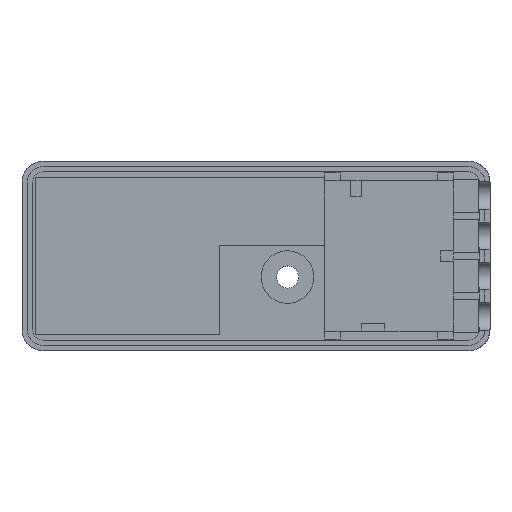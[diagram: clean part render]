
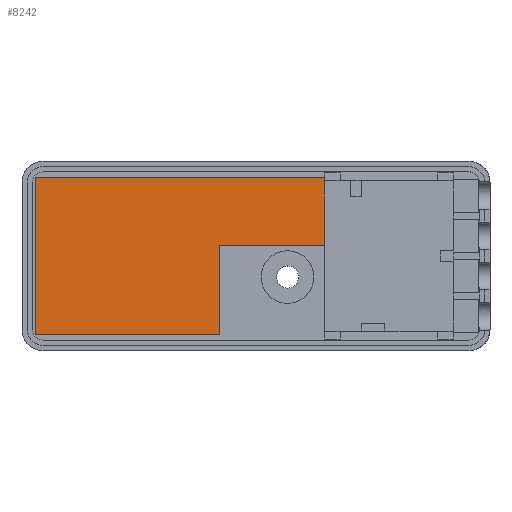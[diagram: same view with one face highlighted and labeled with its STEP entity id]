
A CAD part, top view. The second image highlights one B-rep face of the part: STEP entity #8242.
In plain terms, the highlighted planar face has unit normal (0, 0, 1).
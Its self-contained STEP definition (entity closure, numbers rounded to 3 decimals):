
#3448 = PLANE('',#3449);
#3449 = AXIS2_PLACEMENT_3D('',#3450,#3451,#3452);
#3450 = CARTESIAN_POINT('',(-42.,15.,8.));
#3451 = DIRECTION('',(0.,-1.,0.));
#3452 = DIRECTION('',(1.,0.,0.));
#3474 = PLANE('',#3475);
#3475 = AXIS2_PLACEMENT_3D('',#3476,#3477,#3478);
#3476 = CARTESIAN_POINT('',(-42.,-15.,8.));
#3477 = DIRECTION('',(1.,0.,0.));
#3478 = DIRECTION('',(0.,1.,0.));
#3500 = PLANE('',#3501);
#3501 = AXIS2_PLACEMENT_3D('',#3502,#3503,#3504);
#3502 = CARTESIAN_POINT('',(-7.,-15.,8.));
#3503 = DIRECTION('',(0.,1.,0.));
#3504 = DIRECTION('',(-1.,0.,0.));
#3526 = PLANE('',#3527);
#3527 = AXIS2_PLACEMENT_3D('',#3528,#3529,#3530);
#3528 = CARTESIAN_POINT('',(-7.,2.,8.));
#3529 = DIRECTION('',(-1.,0.,0.));
#3530 = DIRECTION('',(0.,-1.,0.));
#3552 = PLANE('',#3553);
#3553 = AXIS2_PLACEMENT_3D('',#3554,#3555,#3556);
#3554 = CARTESIAN_POINT('',(13.,2.,8.));
#3555 = DIRECTION('',(0.,1.,0.));
#3556 = DIRECTION('',(-1.,0.,0.));
#6180 = VERTEX_POINT('',#6181);
#6181 = CARTESIAN_POINT('',(13.,2.,1.));
#6202 = EDGE_CURVE('',#6180,#6203,#6205,.T.);
#6203 = VERTEX_POINT('',#6204);
#6204 = CARTESIAN_POINT('',(-7.,2.,1.));
#6205 = SURFACE_CURVE('',#6206,(#6210,#6217),.PCURVE_S1.);
#6206 = LINE('',#6207,#6208);
#6207 = CARTESIAN_POINT('',(13.,2.,1.));
#6208 = VECTOR('',#6209,1.);
#6209 = DIRECTION('',(-1.,0.,0.));
#6210 = PCURVE('',#3552,#6211);
#6211 = DEFINITIONAL_REPRESENTATION('',(#6212),#6216);
#6212 = LINE('',#6213,#6214);
#6213 = CARTESIAN_POINT('',(0.,-7.));
#6214 = VECTOR('',#6215,1.);
#6215 = DIRECTION('',(1.,0.));
#6216 = ( GEOMETRIC_REPRESENTATION_CONTEXT(2) 
PARAMETRIC_REPRESENTATION_CONTEXT() REPRESENTATION_CONTEXT('2D SPACE',''
  ) );
#6217 = PCURVE('',#6218,#6223);
#6218 = PLANE('',#6219);
#6219 = AXIS2_PLACEMENT_3D('',#6220,#6221,#6222);
#6220 = CARTESIAN_POINT('',(-16.5,2.,1.));
#6221 = DIRECTION('',(-0.,-0.,-1.));
#6222 = DIRECTION('',(-1.,0.,0.));
#6223 = DEFINITIONAL_REPRESENTATION('',(#6224),#6228);
#6224 = LINE('',#6225,#6226);
#6225 = CARTESIAN_POINT('',(-29.5,0.));
#6226 = VECTOR('',#6227,1.);
#6227 = DIRECTION('',(1.,0.));
#6228 = ( GEOMETRIC_REPRESENTATION_CONTEXT(2) 
PARAMETRIC_REPRESENTATION_CONTEXT() REPRESENTATION_CONTEXT('2D SPACE',''
  ) );
#6256 = EDGE_CURVE('',#6203,#6257,#6259,.T.);
#6257 = VERTEX_POINT('',#6258);
#6258 = CARTESIAN_POINT('',(-7.,-15.,1.));
#6259 = SURFACE_CURVE('',#6260,(#6264,#6271),.PCURVE_S1.);
#6260 = LINE('',#6261,#6262);
#6261 = CARTESIAN_POINT('',(-7.,2.,1.));
#6262 = VECTOR('',#6263,1.);
#6263 = DIRECTION('',(0.,-1.,0.));
#6264 = PCURVE('',#3526,#6265);
#6265 = DEFINITIONAL_REPRESENTATION('',(#6266),#6270);
#6266 = LINE('',#6267,#6268);
#6267 = CARTESIAN_POINT('',(0.,-7.));
#6268 = VECTOR('',#6269,1.);
#6269 = DIRECTION('',(1.,0.));
#6270 = ( GEOMETRIC_REPRESENTATION_CONTEXT(2) 
PARAMETRIC_REPRESENTATION_CONTEXT() REPRESENTATION_CONTEXT('2D SPACE',''
  ) );
#6271 = PCURVE('',#6218,#6272);
#6272 = DEFINITIONAL_REPRESENTATION('',(#6273),#6277);
#6273 = LINE('',#6274,#6275);
#6274 = CARTESIAN_POINT('',(-9.5,0.));
#6275 = VECTOR('',#6276,1.);
#6276 = DIRECTION('',(0.,-1.));
#6277 = ( GEOMETRIC_REPRESENTATION_CONTEXT(2) 
PARAMETRIC_REPRESENTATION_CONTEXT() REPRESENTATION_CONTEXT('2D SPACE',''
  ) );
#6305 = EDGE_CURVE('',#6257,#6306,#6308,.T.);
#6306 = VERTEX_POINT('',#6307);
#6307 = CARTESIAN_POINT('',(-42.,-15.,1.));
#6308 = SURFACE_CURVE('',#6309,(#6313,#6320),.PCURVE_S1.);
#6309 = LINE('',#6310,#6311);
#6310 = CARTESIAN_POINT('',(-7.,-15.,1.));
#6311 = VECTOR('',#6312,1.);
#6312 = DIRECTION('',(-1.,0.,0.));
#6313 = PCURVE('',#3500,#6314);
#6314 = DEFINITIONAL_REPRESENTATION('',(#6315),#6319);
#6315 = LINE('',#6316,#6317);
#6316 = CARTESIAN_POINT('',(0.,-7.));
#6317 = VECTOR('',#6318,1.);
#6318 = DIRECTION('',(1.,0.));
#6319 = ( GEOMETRIC_REPRESENTATION_CONTEXT(2) 
PARAMETRIC_REPRESENTATION_CONTEXT() REPRESENTATION_CONTEXT('2D SPACE',''
  ) );
#6320 = PCURVE('',#6218,#6321);
#6321 = DEFINITIONAL_REPRESENTATION('',(#6322),#6326);
#6322 = LINE('',#6323,#6324);
#6323 = CARTESIAN_POINT('',(-9.5,-17.));
#6324 = VECTOR('',#6325,1.);
#6325 = DIRECTION('',(1.,0.));
#6326 = ( GEOMETRIC_REPRESENTATION_CONTEXT(2) 
PARAMETRIC_REPRESENTATION_CONTEXT() REPRESENTATION_CONTEXT('2D SPACE',''
  ) );
#6354 = EDGE_CURVE('',#6306,#6355,#6357,.T.);
#6355 = VERTEX_POINT('',#6356);
#6356 = CARTESIAN_POINT('',(-42.,15.,1.));
#6357 = SURFACE_CURVE('',#6358,(#6362,#6369),.PCURVE_S1.);
#6358 = LINE('',#6359,#6360);
#6359 = CARTESIAN_POINT('',(-42.,-15.,1.));
#6360 = VECTOR('',#6361,1.);
#6361 = DIRECTION('',(0.,1.,0.));
#6362 = PCURVE('',#3474,#6363);
#6363 = DEFINITIONAL_REPRESENTATION('',(#6364),#6368);
#6364 = LINE('',#6365,#6366);
#6365 = CARTESIAN_POINT('',(0.,-7.));
#6366 = VECTOR('',#6367,1.);
#6367 = DIRECTION('',(1.,0.));
#6368 = ( GEOMETRIC_REPRESENTATION_CONTEXT(2) 
PARAMETRIC_REPRESENTATION_CONTEXT() REPRESENTATION_CONTEXT('2D SPACE',''
  ) );
#6369 = PCURVE('',#6218,#6370);
#6370 = DEFINITIONAL_REPRESENTATION('',(#6371),#6375);
#6371 = LINE('',#6372,#6373);
#6372 = CARTESIAN_POINT('',(25.5,-17.));
#6373 = VECTOR('',#6374,1.);
#6374 = DIRECTION('',(0.,1.));
#6375 = ( GEOMETRIC_REPRESENTATION_CONTEXT(2) 
PARAMETRIC_REPRESENTATION_CONTEXT() REPRESENTATION_CONTEXT('2D SPACE',''
  ) );
#6403 = EDGE_CURVE('',#6355,#6404,#6406,.T.);
#6404 = VERTEX_POINT('',#6405);
#6405 = CARTESIAN_POINT('',(13.,15.,1.));
#6406 = SURFACE_CURVE('',#6407,(#6411,#6418),.PCURVE_S1.);
#6407 = LINE('',#6408,#6409);
#6408 = CARTESIAN_POINT('',(-42.,15.,1.));
#6409 = VECTOR('',#6410,1.);
#6410 = DIRECTION('',(1.,0.,0.));
#6411 = PCURVE('',#3448,#6412);
#6412 = DEFINITIONAL_REPRESENTATION('',(#6413),#6417);
#6413 = LINE('',#6414,#6415);
#6414 = CARTESIAN_POINT('',(0.,-7.));
#6415 = VECTOR('',#6416,1.);
#6416 = DIRECTION('',(1.,0.));
#6417 = ( GEOMETRIC_REPRESENTATION_CONTEXT(2) 
PARAMETRIC_REPRESENTATION_CONTEXT() REPRESENTATION_CONTEXT('2D SPACE',''
  ) );
#6418 = PCURVE('',#6218,#6419);
#6419 = DEFINITIONAL_REPRESENTATION('',(#6420),#6424);
#6420 = LINE('',#6421,#6422);
#6421 = CARTESIAN_POINT('',(25.5,13.));
#6422 = VECTOR('',#6423,1.);
#6423 = DIRECTION('',(-1.,0.));
#6424 = ( GEOMETRIC_REPRESENTATION_CONTEXT(2) 
PARAMETRIC_REPRESENTATION_CONTEXT() REPRESENTATION_CONTEXT('2D SPACE',''
  ) );
#6442 = PLANE('',#6443);
#6443 = AXIS2_PLACEMENT_3D('',#6444,#6445,#6446);
#6444 = CARTESIAN_POINT('',(13.,15.,8.));
#6445 = DIRECTION('',(-1.,0.,0.));
#6446 = DIRECTION('',(0.,-1.,0.));
#7954 = PLANE('',#7955);
#7955 = AXIS2_PLACEMENT_3D('',#7956,#7957,#7958);
#7956 = CARTESIAN_POINT('',(25.279,0.307,1.));
#7957 = DIRECTION('',(-0.,-0.,-1.));
#7958 = DIRECTION('',(-1.,0.,0.));
#8242 = ADVANCED_FACE('',(#8243),#6218,.F.);
#8243 = FACE_BOUND('',#8244,.F.);
#8244 = EDGE_LOOP('',(#8245,#8246,#8269,#8290,#8291,#8292,#8293));
#8245 = ORIENTED_EDGE('',*,*,#6403,.T.);
#8246 = ORIENTED_EDGE('',*,*,#8247,.T.);
#8247 = EDGE_CURVE('',#6404,#8248,#8250,.T.);
#8248 = VERTEX_POINT('',#8249);
#8249 = CARTESIAN_POINT('',(13.,14.3,1.));
#8250 = SURFACE_CURVE('',#8251,(#8255,#8262),.PCURVE_S1.);
#8251 = LINE('',#8252,#8253);
#8252 = CARTESIAN_POINT('',(13.,15.,1.));
#8253 = VECTOR('',#8254,1.);
#8254 = DIRECTION('',(0.,-1.,0.));
#8255 = PCURVE('',#6218,#8256);
#8256 = DEFINITIONAL_REPRESENTATION('',(#8257),#8261);
#8257 = LINE('',#8258,#8259);
#8258 = CARTESIAN_POINT('',(-29.5,13.));
#8259 = VECTOR('',#8260,1.);
#8260 = DIRECTION('',(0.,-1.));
#8261 = ( GEOMETRIC_REPRESENTATION_CONTEXT(2) 
PARAMETRIC_REPRESENTATION_CONTEXT() REPRESENTATION_CONTEXT('2D SPACE',''
  ) );
#8262 = PCURVE('',#6442,#8263);
#8263 = DEFINITIONAL_REPRESENTATION('',(#8264),#8268);
#8264 = LINE('',#8265,#8266);
#8265 = CARTESIAN_POINT('',(0.,-7.));
#8266 = VECTOR('',#8267,1.);
#8267 = DIRECTION('',(1.,0.));
#8268 = ( GEOMETRIC_REPRESENTATION_CONTEXT(2) 
PARAMETRIC_REPRESENTATION_CONTEXT() REPRESENTATION_CONTEXT('2D SPACE',''
  ) );
#8269 = ORIENTED_EDGE('',*,*,#8270,.T.);
#8270 = EDGE_CURVE('',#8248,#6180,#8271,.T.);
#8271 = SURFACE_CURVE('',#8272,(#8276,#8283),.PCURVE_S1.);
#8272 = LINE('',#8273,#8274);
#8273 = CARTESIAN_POINT('',(13.,15.,1.));
#8274 = VECTOR('',#8275,1.);
#8275 = DIRECTION('',(0.,-1.,0.));
#8276 = PCURVE('',#6218,#8277);
#8277 = DEFINITIONAL_REPRESENTATION('',(#8278),#8282);
#8278 = LINE('',#8279,#8280);
#8279 = CARTESIAN_POINT('',(-29.5,13.));
#8280 = VECTOR('',#8281,1.);
#8281 = DIRECTION('',(0.,-1.));
#8282 = ( GEOMETRIC_REPRESENTATION_CONTEXT(2) 
PARAMETRIC_REPRESENTATION_CONTEXT() REPRESENTATION_CONTEXT('2D SPACE',''
  ) );
#8283 = PCURVE('',#7954,#8284);
#8284 = DEFINITIONAL_REPRESENTATION('',(#8285),#8289);
#8285 = LINE('',#8286,#8287);
#8286 = CARTESIAN_POINT('',(12.279,14.693));
#8287 = VECTOR('',#8288,1.);
#8288 = DIRECTION('',(0.,-1.));
#8289 = ( GEOMETRIC_REPRESENTATION_CONTEXT(2) 
PARAMETRIC_REPRESENTATION_CONTEXT() REPRESENTATION_CONTEXT('2D SPACE',''
  ) );
#8290 = ORIENTED_EDGE('',*,*,#6202,.T.);
#8291 = ORIENTED_EDGE('',*,*,#6256,.T.);
#8292 = ORIENTED_EDGE('',*,*,#6305,.T.);
#8293 = ORIENTED_EDGE('',*,*,#6354,.T.);
